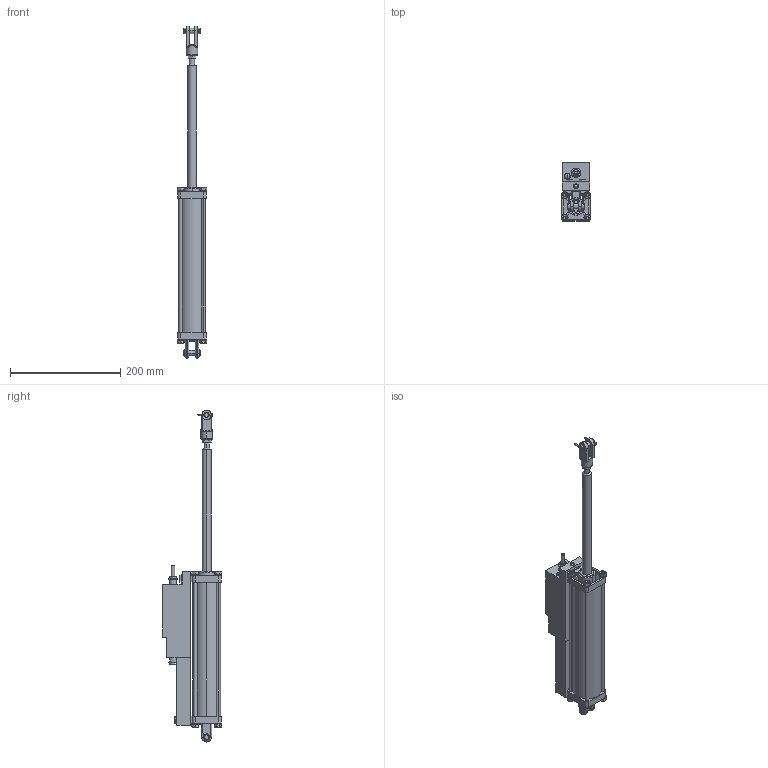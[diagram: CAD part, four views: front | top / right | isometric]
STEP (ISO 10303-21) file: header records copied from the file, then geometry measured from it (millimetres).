
FILE_DESCRIPTION (( 'STEP AP214' ), '1' );
FILE_NAME ('4605-8_revC.STEP', '2019-04-11T17:15:35', ( '' ), ( '' ), 'SwSTEP 2.0', 'SolidWorks 2017', '' );
FILE_SCHEMA (( 'AUTOMOTIVE_DESIGN' ));
Length unit declared in the file: inch
Products named in the file (1): 4605-8_revC
Bounding box: 54.11 x 107.27 x 602.72 mm (x, y, z)
Surface area: 173550.1 mm2 (no closed solid volume)
Topology: 0 solids, 74 shells, 868 faces, 2442 edges, 1611 vertices
Faces by surface type: plane 328, cylinder 285, cone 194, bspline 28, torus 21, sphere 12
Entity records: 41769 total; most frequent: CARTESIAN_POINT 8623, DIRECTION 4686, ORIENTED_EDGE 4114, EDGE_CURVE 2440, AXIS2_PLACEMENT_3D 1846, VERTEX_POINT 1611, CIRCLE 1005, VECTOR 994
